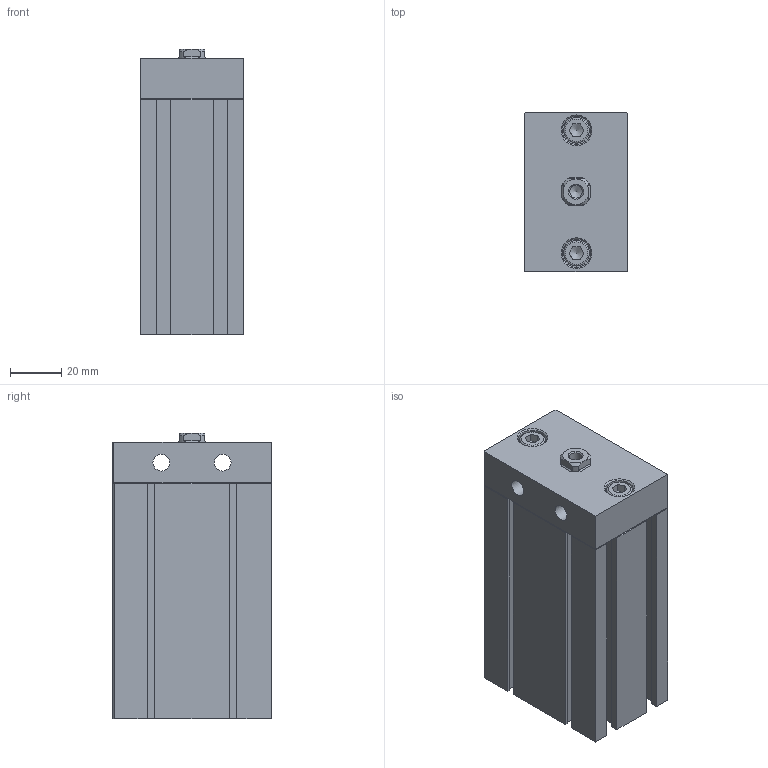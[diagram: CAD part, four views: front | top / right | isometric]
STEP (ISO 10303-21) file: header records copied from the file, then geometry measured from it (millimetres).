
FILE_DESCRIPTION((''),'2;1');
FILE_NAME('I:\3D電子目錄\氣缸\ND\ND\ND32\ND32x60.stp','2007-07-30T20:19:55',('Administrator'),(''),'Autodesk Inventor 11','Autodesk Inventor 11','');
FILE_SCHEMA(('AUTOMOTIVE_DESIGN { 1 0 10303 214 1 1 1 1 }'));
Length unit declared in the file: millimetre
Products named in the file (4): ND32; R 形環 34; ISO 4762 M6 x 16
Assembly tree (4 placements, depth 2):
  ND32
    ND32
    R 形環 34
    ISO 4762 M6 x 16  x2
Bounding box: 40 x 62.1 x 111.5 mm (x, y, z)
Volume: 239524.1 mm3; surface area: 43887.6 mm2
Topology: 5 solids, 5 shells, 195 faces, 467 edges, 297 vertices
Faces by surface type: plane 133, cylinder 25, cone 18, bspline 16, torus 3
Full cylindrical faces by diameter (mm): 1.9 x2, 2.2 x2, 6 x2, 6.5 x2, 10 x2, 11 x2, 23 x1, 34 x1, 36 x1
Entity records: 5217 total; most frequent: CARTESIAN_POINT 1095, DIRECTION 812, ORIENTED_EDGE 782, EDGE_CURVE 391, VECTOR 288, LINE 288, VERTEX_POINT 271, AXIS2_PLACEMENT_3D 262
